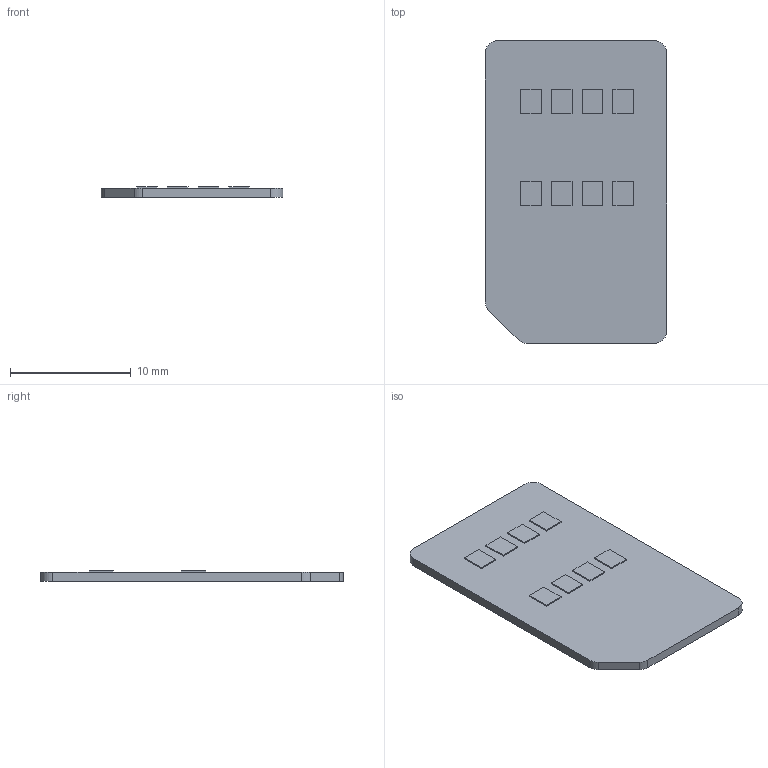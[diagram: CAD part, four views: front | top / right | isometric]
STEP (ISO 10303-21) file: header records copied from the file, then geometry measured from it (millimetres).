
FILE_DESCRIPTION((''),'2;1');
FILE_NAME('SIM-CARD_1_PRT','2008-06-30T',('GRA'),(''),'PRO/ENGINEER BY PARAMETRIC TECHNOLOGY CORPORATION, 2006170','PRO/ENGINEER BY PARAMETRIC TECHNOLOGY CORPORATION, 2006170','');
FILE_SCHEMA(('CONFIG_CONTROL_DESIGN'));
Length unit declared in the file: millimetre
Products named in the file (1): SIM-CARD_1_PRT
Bounding box: 15 x 25 x 0.86 mm (x, y, z)
Volume: 282.4 mm3; surface area: 813.1 mm2
Topology: 1 solids, 1 shells, 236 faces, 648 edges, 432 vertices
Faces by surface type: plane 231, cylinder 5
Entity records: 7380 total; most frequent: CARTESIAN_POINT 1316, ORIENTED_EDGE 1296, DIRECTION 1130, EDGE_CURVE 648, VECTOR 638, LINE 638, VERTEX_POINT 432, EDGE_LOOP 254
